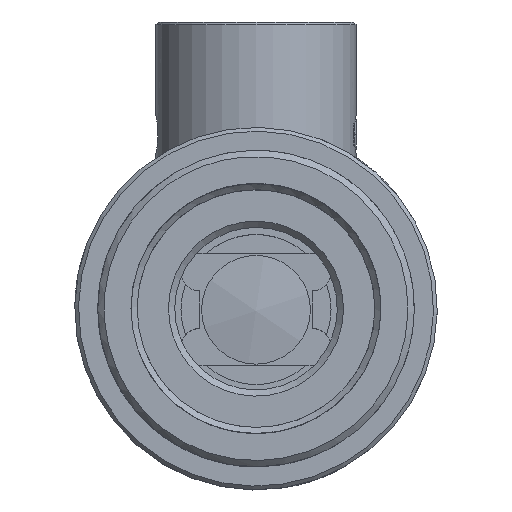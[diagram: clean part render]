
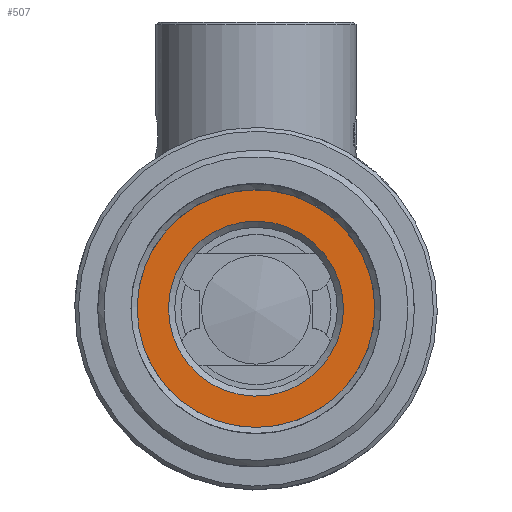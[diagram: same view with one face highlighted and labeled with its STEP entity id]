
A CAD part, top view. The second image highlights one B-rep face of the part: STEP entity #507.
In plain terms, the highlighted planar face has unit normal (0, 0, 1).
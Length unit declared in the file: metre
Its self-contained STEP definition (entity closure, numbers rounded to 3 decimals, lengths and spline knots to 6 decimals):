
#507=ADVANCED_FACE('2:82261',(#1379,#1380),#1381,.F.);
#1379=FACE_BOUND('',#2803,.T.);
#1380=FACE_OUTER_BOUND('',#2804,.T.);
#1381=PLANE('',#2805);
#2803=EDGE_LOOP('',(#4389));
#2804=EDGE_LOOP('',(#4390));
#2805=AXIS2_PLACEMENT_3D('',#4391,#4392,#4393);
#4389=ORIENTED_EDGE('',*,*,#7165,.T.);
#4390=ORIENTED_EDGE('',*,*,#7156,.T.);
#4391=CARTESIAN_POINT('',(0.006823,0.008367,0.073884));
#4392=DIRECTION('',(0.,0.0,-1.0));
#4393=DIRECTION('',(-1.0,0.0,0.));
#7156=EDGE_CURVE('2:83251',#8329,#8329,#8330,.F.);
#7165=EDGE_CURVE('NONE',#8344,#8344,#8345,.T.);
#8329=VERTEX_POINT('',#10468);
#8330=CIRCLE('',#10469,0.00951);
#8344=VERTEX_POINT('',#10650);
#8345=CIRCLE('',#10651,0.007);
#10468=CARTESIAN_POINT('',(0.000546,-0.001096,0.073884));
#10469=AXIS2_PLACEMENT_3D('',#12801,#12802,#12803);
#10650=CARTESIAN_POINT('',(0.003432,-0.003359,0.073884));
#10651=AXIS2_PLACEMENT_3D('',#12804,#12805,#12806);
#12801=CARTESIAN_POINT('',(0.010056,-0.001096,0.073884));
#12802=DIRECTION('',(0.,0.0,-1.0));
#12803=DIRECTION('',(-1.0,0.0,0.));
#12804=CARTESIAN_POINT('',(0.010056,-0.001096,0.073884));
#12805=DIRECTION('',(0.,0.,-1.0));
#12806=DIRECTION('',(-0.946,-0.323,0.));
